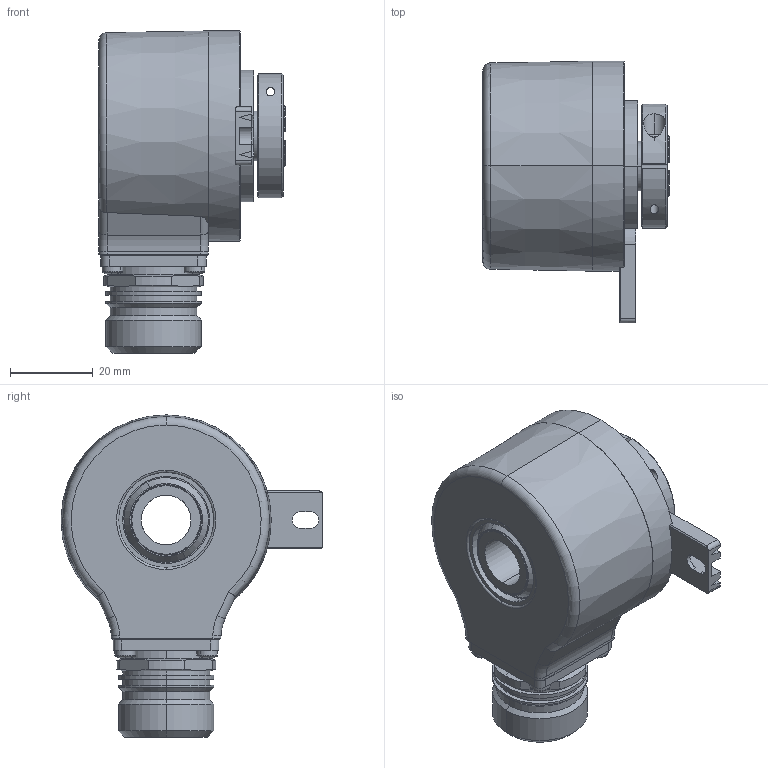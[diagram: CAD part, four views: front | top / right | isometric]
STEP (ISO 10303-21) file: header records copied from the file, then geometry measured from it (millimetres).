
FILE_DESCRIPTION (( 'STEP AP214' ), '1' );
FILE_NAME ('5020.25X4.XXXX.STEP', '2007-06-18T09:15:25', ( 'DanneckerS' ), ( ' ' ), 'SwSTEP 2.0', 'SolidWorks 2007', '' );
FILE_SCHEMA (( 'AUTOMOTIVE_DESIGN' ));
Length unit declared in the file: millimetre
Products named in the file (1): 5020.25X4.XXXX
Bounding box: 45.1 x 63.3 x 77.9 mm (x, y, z)
Surface area: 19271.4 mm2 (no closed solid volume)
Topology: 0 solids, 37 shells, 395 faces, 1136 edges, 756 vertices
Faces by surface type: cylinder 148, plane 141, torus 36, cone 34, sphere 32, bspline 4
Entity records: 17643 total; most frequent: CARTESIAN_POINT 2751, DIRECTION 2420, ORIENTED_EDGE 1955, EDGE_CURVE 1112, AXIS2_PLACEMENT_3D 985, VERTEX_POINT 756, CIRCLE 593, EDGE_LOOP 460
